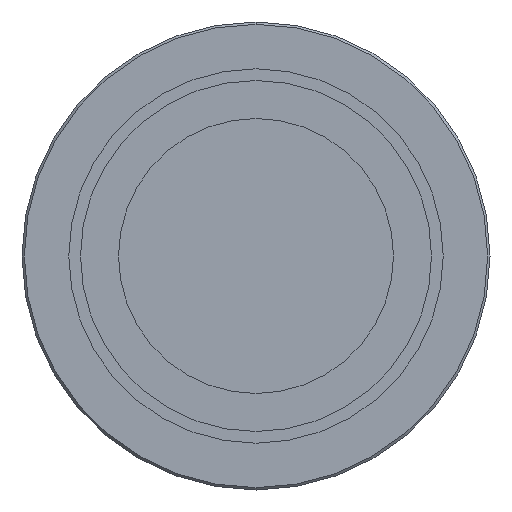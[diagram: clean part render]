
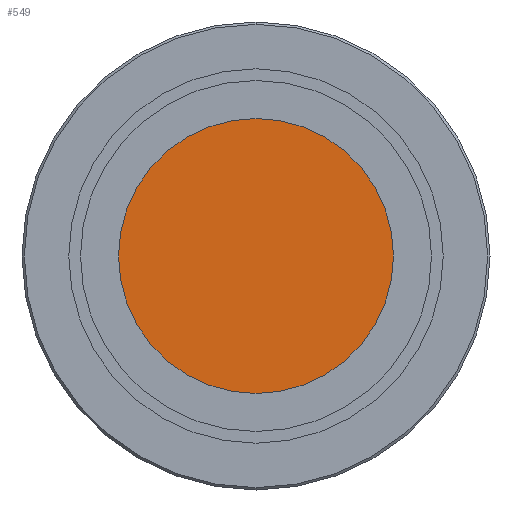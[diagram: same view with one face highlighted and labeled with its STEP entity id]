
A CAD part, front view. The second image highlights one B-rep face of the part: STEP entity #549.
In plain terms, the highlighted planar face has unit normal (0, -1, 0).
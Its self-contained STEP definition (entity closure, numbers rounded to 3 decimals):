
#148 = DIRECTION ( 'NONE',  ( 0., 0., -1. ) ) ;
#149 = DIRECTION ( 'NONE',  ( 0., -1., 0. ) ) ;
#150 = CARTESIAN_POINT ( 'NONE',  ( 1.175, 0.3, 0. ) ) ;
#151 = AXIS2_PLACEMENT_3D ( 'NONE', #150, #149, #148 ) ;
#152 = FACE_OUTER_BOUND ( 'NONE', #546, .T. ) ;
#210 = PLANE ( 'NONE',  #151 ) ;
#347 = EDGE_CURVE ( 'NONE', #437, #435, #825, .T. ) ;
#435 = VERTEX_POINT ( 'NONE', #860 ) ;
#437 = VERTEX_POINT ( 'NONE', #859 ) ;
#452 = EDGE_CURVE ( 'NONE', #435, #437, #840, .T. ) ;
#546 = EDGE_LOOP ( 'NONE', ( #548, #631 ) ) ;
#548 = ORIENTED_EDGE ( 'NONE', *, *, #347, .T. ) ;
#549 = ADVANCED_FACE ( 'NONE', ( #152 ), #210, .T. ) ;
#631 = ORIENTED_EDGE ( 'NONE', *, *, #452, .T. ) ;
#721 = DIRECTION ( 'NONE',  ( 0., 0., -1. ) ) ;
#822 = DIRECTION ( 'NONE',  ( 0., -1., 0. ) ) ;
#823 = CARTESIAN_POINT ( 'NONE',  ( 0., 0.3, 0. ) ) ;
#824 = AXIS2_PLACEMENT_3D ( 'NONE', #823, #822, #721 ) ;
#825 = CIRCLE ( 'NONE', #824, 1.175 ) ;
#836 = DIRECTION ( 'NONE',  ( 0., 0., -1. ) ) ;
#837 = DIRECTION ( 'NONE',  ( 0., -1., 0. ) ) ;
#838 = CARTESIAN_POINT ( 'NONE',  ( 0., 0.3, 0. ) ) ;
#839 = AXIS2_PLACEMENT_3D ( 'NONE', #838, #837, #836 ) ;
#840 = CIRCLE ( 'NONE', #839, 1.175 ) ;
#859 = CARTESIAN_POINT ( 'NONE',  ( 0., 0.3, -1.175 ) ) ;
#860 = CARTESIAN_POINT ( 'NONE',  ( 0., 0.3, 1.175 ) ) ;
